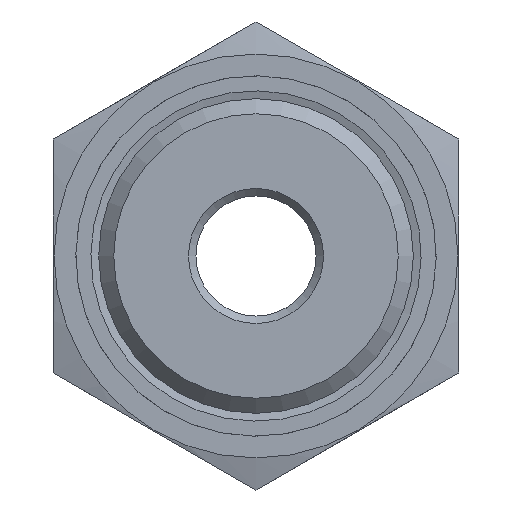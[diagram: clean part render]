
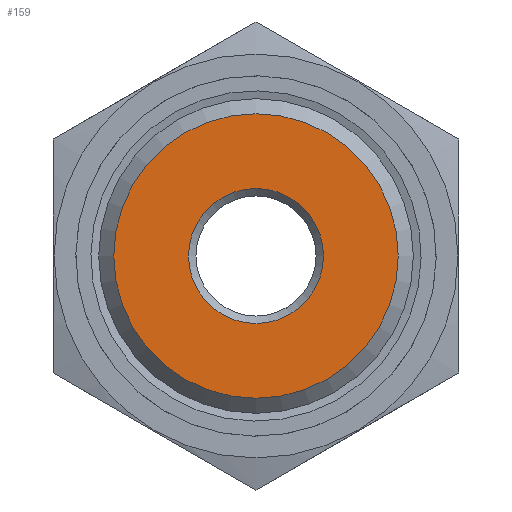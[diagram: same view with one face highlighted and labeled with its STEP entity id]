
A CAD part, left-side view. The second image highlights one B-rep face of the part: STEP entity #159.
In plain terms, the highlighted planar face has unit normal (-1, 0, 0).
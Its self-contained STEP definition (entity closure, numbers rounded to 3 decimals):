
#159 = ADVANCED_FACE( '', ( #319, #320 ), #321, .T. );
#319 = FACE_BOUND( '', #475, .T. );
#320 = FACE_OUTER_BOUND( '', #476, .T. );
#321 = PLANE( '', #477 );
#475 = EDGE_LOOP( '', ( #703 ) );
#476 = EDGE_LOOP( '', ( #704 ) );
#477 = AXIS2_PLACEMENT_3D( '', #705, #706, #707 );
#703 = ORIENTED_EDGE( '', *, *, #810, .T. );
#704 = ORIENTED_EDGE( '', *, *, #832, .T. );
#705 = CARTESIAN_POINT( '', ( -39., -13.5, -7.794 ) );
#706 = DIRECTION( '', ( -1., 0., 0. ) );
#707 = DIRECTION( '', ( 0., -1., 0. ) );
#810 = EDGE_CURVE( '', #926, #926, #927, .F. );
#832 = EDGE_CURVE( '', #957, #957, #958, .T. );
#926 = VERTEX_POINT( '', #1158 );
#927 = CIRCLE( '', #1159, 4.5 );
#957 = VERTEX_POINT( '', #1190 );
#958 = CIRCLE( '', #1191, 9.478 );
#1158 = CARTESIAN_POINT( '', ( -39., -4.5, 0. ) );
#1159 = AXIS2_PLACEMENT_3D( '', #1264, #1265, #1266 );
#1190 = CARTESIAN_POINT( '', ( -39., -9.478, 0. ) );
#1191 = AXIS2_PLACEMENT_3D( '', #1292, #1293, #1294 );
#1264 = CARTESIAN_POINT( '', ( -39., 0., 0. ) );
#1265 = DIRECTION( '', ( -1., 0., 0. ) );
#1266 = DIRECTION( '', ( 0., -1., 0. ) );
#1292 = CARTESIAN_POINT( '', ( -39., 0., 0. ) );
#1293 = DIRECTION( '', ( -1., 0., 0. ) );
#1294 = DIRECTION( '', ( 0., -1., 0. ) );
